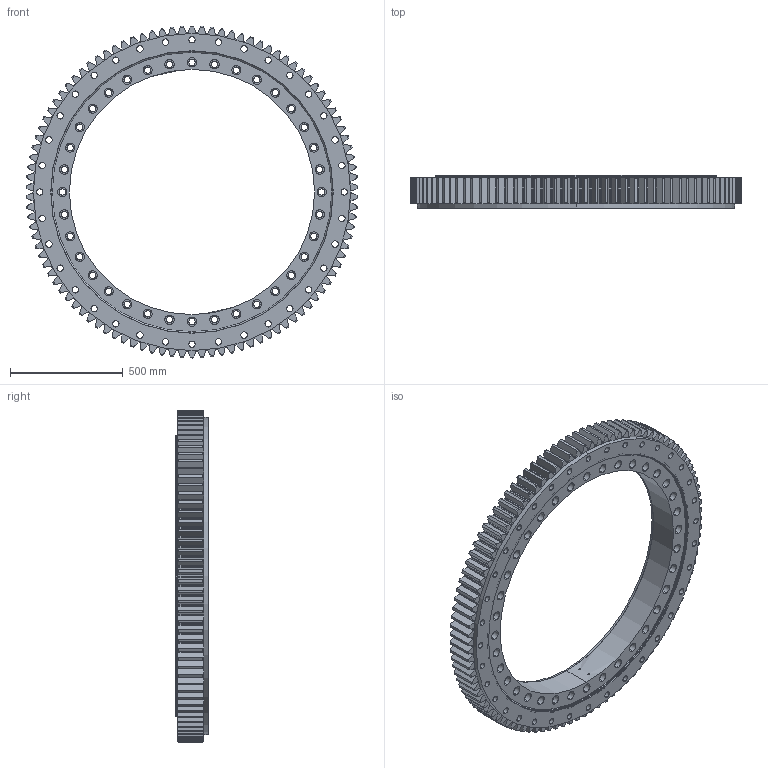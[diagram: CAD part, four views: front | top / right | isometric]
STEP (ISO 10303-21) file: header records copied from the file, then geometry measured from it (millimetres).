
FILE_DESCRIPTION (( 'STEP AP214' ), '1' );
FILE_NAME ('B2240-2-1472BB.STEP', '2022-11-28T14:53:41', ( '' ), ( '' ), 'SwSTEP 2.0', 'SolidWorks 2020', '' );
FILE_SCHEMA (( 'AUTOMOTIVE_DESIGN' ));
Length unit declared in the file: millimetre
Products named in the file (1): B2240-2-1472BB
Bounding box: 1471.61 x 145 x 1472 mm (x, y, z)
Volume: 85831946 mm3; surface area: 5215134.6 mm2
Topology: 4 solids, 4 shells, 1141 faces, 3148 edges, 2097 vertices
Faces by surface type: cylinder 429, plane 294, cone 214, bspline 204
Entity records: 38288 total; most frequent: CARTESIAN_POINT 9967, ORIENTED_EDGE 6296, DIRECTION 5253, EDGE_CURVE 3148, VERTEX_POINT 2097, AXIS2_PLACEMENT_3D 1999, EDGE_LOOP 1383, LINE 1255
